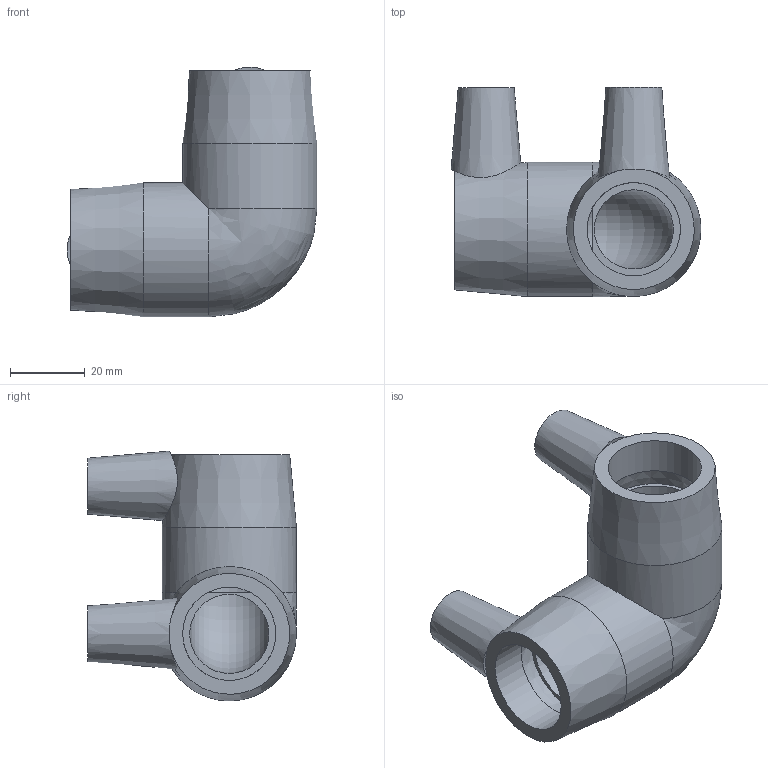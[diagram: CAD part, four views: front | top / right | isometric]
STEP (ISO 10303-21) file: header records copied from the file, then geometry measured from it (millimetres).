
FILE_DESCRIPTION(/* description */ ('PLASSON 90° ELBOW 25'),/* implementation_level */ '2;1');
FILE_NAME(/* name */ '490504025.stp',/* time_stamp */ '2026-03-22T13:14:52+02:00',/* author */ ('KIM'),/* organization */ (''),/* preprocessor_version */ 'ST-DEVELOPER v20.1',/* originating_system */ 'Autodesk Inventor 2026',/* authorisation */ '');
FILE_SCHEMA (('AUTOMOTIVE_DESIGN { 1 0 10303 214 3 1 1 }'));
Length unit declared in the file: millimetre
Products named in the file (1): 490504025
Bounding box: 67.02 x 56 x 67.02 mm (x, y, z)
Volume: 54092.9 mm3; surface area: 21486.4 mm2
Topology: 1 solids, 1 shells, 32 faces, 66 edges, 40 vertices
Faces by surface type: plane 12, cylinder 10, cone 8, bspline 1, torus 1
Full cylindrical faces by diameter (mm): 4 x2, 10 x2, 25 x4, 36 x2
Entity records: 982 total; most frequent: CARTESIAN_POINT 245, DIRECTION 159, ORIENTED_EDGE 128, AXIS2_PLACEMENT_3D 71, EDGE_CURVE 64, EDGE_LOOP 42, VERTEX_POINT 40, CIRCLE 36
